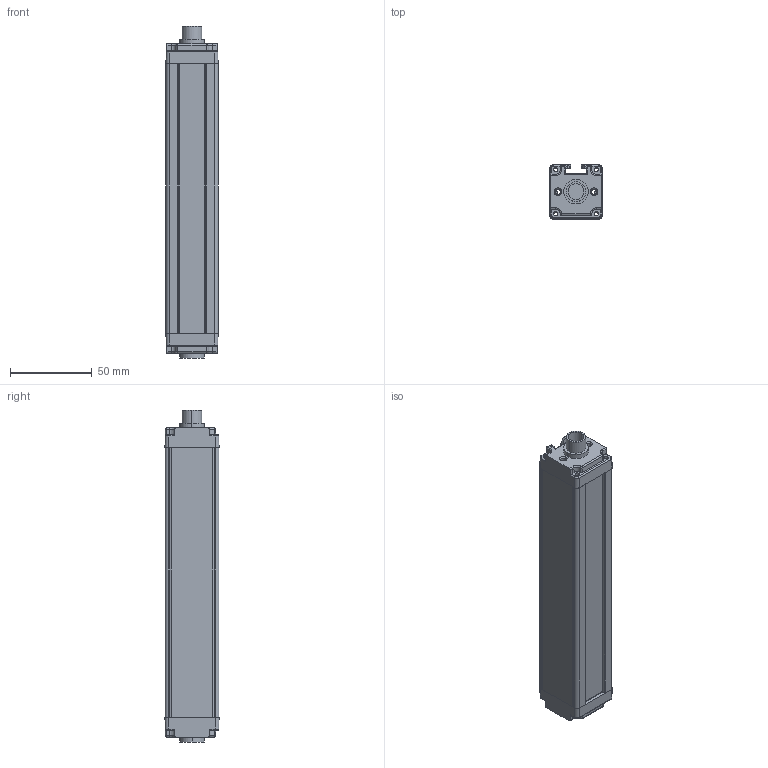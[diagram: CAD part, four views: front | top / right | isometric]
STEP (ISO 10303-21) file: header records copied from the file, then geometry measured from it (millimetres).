
FILE_DESCRIPTION(/* description */ (''),/* implementation_level */ '2;1');
FILE_NAME(/* name */ 'TYG10-14.stp',/* time_stamp */ '2023-08-25T10:33:39+08:00',/* author */ (''),/* organization */ (''),/* preprocessor_version */ 'ST-DEVELOPER v16',/* originating_system */ 'SIEMENS PLM Software NX 11.0',/* authorisation */ '');
FILE_SCHEMA (('AUTOMOTIVE_DESIGN { 1 0 10303 214 3 1 1 1 }'));
Length unit declared in the file: millimetre
Products named in the file (5): YAKELI; B-0823; K-0823; 20230331; TYG10-_stp
Assembly tree (4 placements, depth 2):
  TYG10-_stp
    20230331
    K-0823
    B-0823
    YAKELI
Bounding box: 31.87 x 33.07 x 203 mm (x, y, z)
Volume: 65436.5 mm3; surface area: 70378.1 mm2
Topology: 4 solids, 4 shells, 629 faces, 1887 edges, 1256 vertices
Faces by surface type: plane 346, cylinder 203, cone 36, sphere 16, torus 16, extrusion 8, bspline 4
Entity records: 21872 total; most frequent: CARTESIAN_POINT 4472, ORIENTED_EDGE 3758, DIRECTION 3552, EDGE_CURVE 1879, VERTEX_POINT 1256, AXIS2_PLACEMENT_3D 1188, VECTOR 1176, LINE 1168
